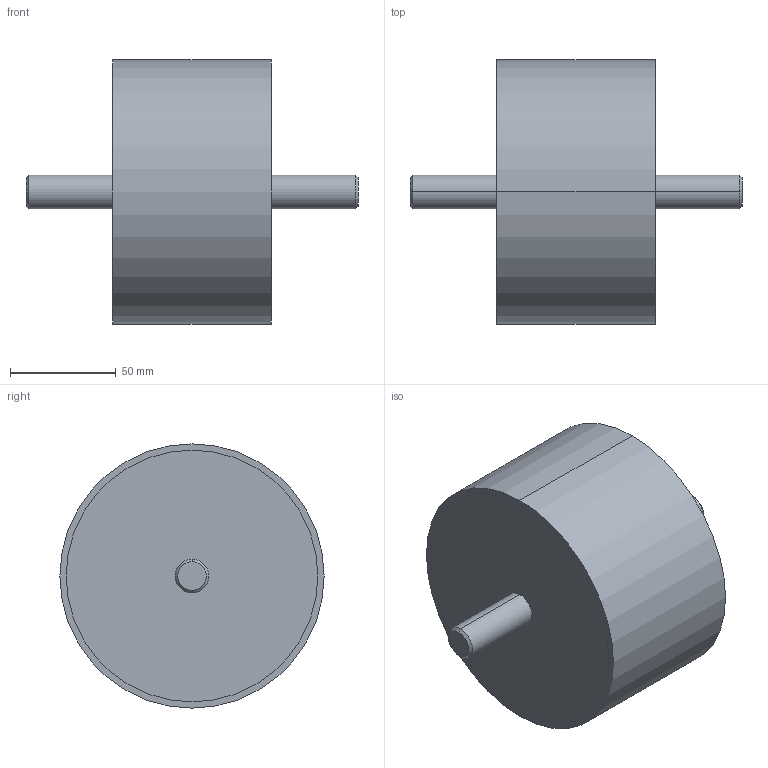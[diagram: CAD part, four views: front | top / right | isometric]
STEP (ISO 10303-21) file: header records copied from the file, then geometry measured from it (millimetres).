
FILE_DESCRIPTION (( 'STEP AP214' ), '1' );
FILE_NAME ('351-125-75-M16-SS-70.step', '2025-07-23T09:46:58', ( '' ), ( '' ), 'SwSTEP 2.0', 'SolidWorks 2022', '' );
FILE_SCHEMA (( 'AUTOMOTIVE_DESIGN' ));
Length unit declared in the file: millimetre
Products named in the file (1): 351-125-75-M16-SS-70
Bounding box: 157 x 125 x 125 mm (x, y, z)
Volume: 936582.7 mm3; surface area: 58048.7 mm2
Topology: 1 solids, 1 shells, 20 faces, 38 edges, 24 vertices
Faces by surface type: cylinder 10, plane 6, cone 4
Entity records: 636 total; most frequent: DIRECTION 104, CARTESIAN_POINT 83, ORIENTED_EDGE 76, AXIS2_PLACEMENT_3D 45, EDGE_CURVE 38, VERTEX_POINT 24, EDGE_LOOP 24, CIRCLE 24
